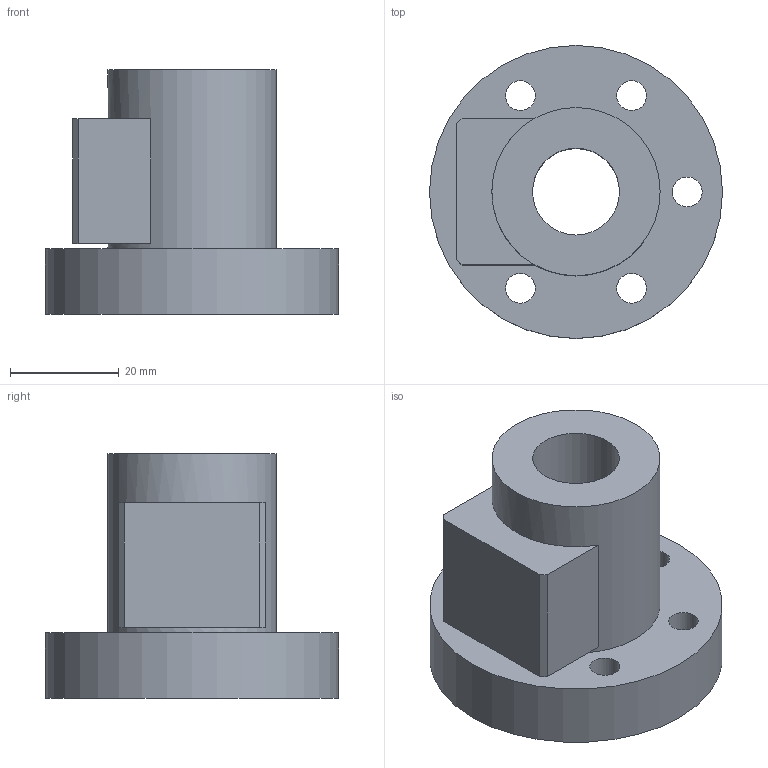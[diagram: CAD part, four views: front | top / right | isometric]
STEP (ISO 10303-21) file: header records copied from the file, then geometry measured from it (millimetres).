
FILE_DESCRIPTION(/* description */ (''),/* implementation_level */ '2;1');
FILE_NAME(/* name */ '16-5B1',/* time_stamp */ '2006-06-16T09:37:52+08:00',/* author */ (''),/* organization */ (''),/* preprocessor_version */ 'ST-DEVELOPER v9',/* originating_system */ 'UGS - NX 4.0',/* authorisation */ '');
FILE_SCHEMA (('CONFIG_CONTROL_DESIGN'));
Length unit declared in the file: millimetre
Products named in the file (1): 16-5B1
Bounding box: 54 x 54 x 45 mm (x, y, z)
Volume: 46053.4 mm3; surface area: 13809 mm2
Topology: 1 solids, 1 shells, 28 faces, 61 edges, 42 vertices
Faces by surface type: plane 15, cylinder 13
Full cylindrical faces by diameter (mm): 5.5 x5, 9.5 x5, 16 x1, 31 x1, 54 x1
Entity records: 794 total; most frequent: DIRECTION 130, CARTESIAN_POINT 111, ORIENTED_EDGE 88, EDGE_LOOP 60, AXIS2_PLACEMENT_3D 57, FACE_BOUND 45, EDGE_CURVE 44, VERTEX_POINT 38
